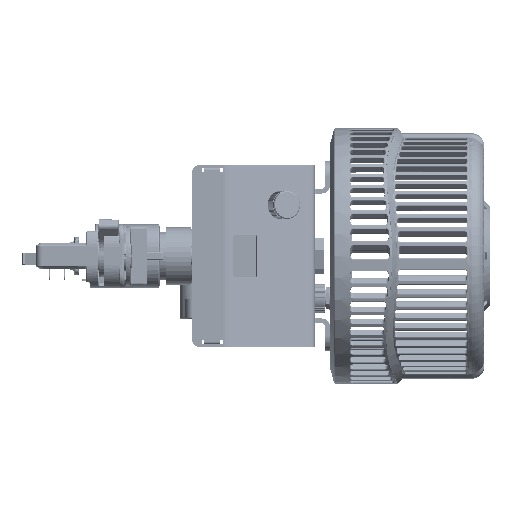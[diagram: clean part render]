
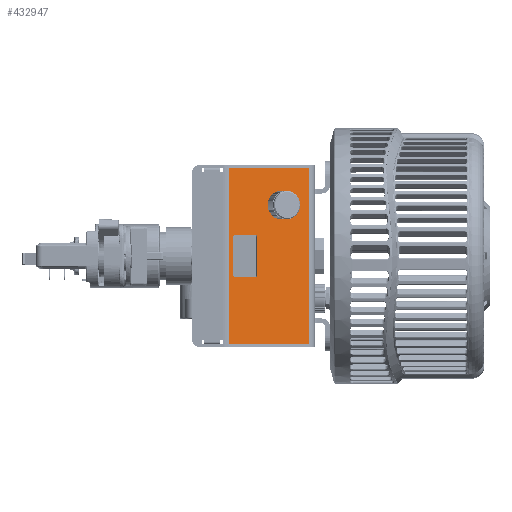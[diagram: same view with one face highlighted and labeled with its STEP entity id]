
A CAD part, left-side view. The second image highlights one B-rep face of the part: STEP entity #432947.
In plain terms, the highlighted planar face has unit normal (-0.94, -0.342, 0).
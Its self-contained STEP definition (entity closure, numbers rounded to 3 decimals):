
#3275 = ORIENTED_EDGE ( 'NONE', *, *, #78972, .T. ) ;
#5434 = CARTESIAN_POINT ( 'NONE',  ( -75.375, 26.401, 9.95 ) ) ;
#6019 = EDGE_CURVE ( 'NONE', #164971, #242608, #255542, .T. ) ;
#15509 = EDGE_CURVE ( 'NONE', #63142, #175358, #480368, .T. ) ;
#22103 = EDGE_CURVE ( 'NONE', #516331, #394031, #467445, .T. ) ;
#36964 = DIRECTION ( 'NONE',  ( -0.94, -0.342, 0. ) ) ;
#39601 = FACE_BOUND ( 'NONE', #167925, .T. ) ;
#41748 = EDGE_CURVE ( 'NONE', #516331, #242608, #69011, .T. ) ;
#47328 = DIRECTION ( 'NONE',  ( -0.342, 0.94, 0. ) ) ;
#47826 = CARTESIAN_POINT ( 'NONE',  ( -75.032, 25.461, -9.95 ) ) ;
#53994 = DIRECTION ( 'NONE',  ( 0.342, -0.94, 0. ) ) ;
#62865 = DIRECTION ( 'NONE',  ( 0.94, 0.342, 0. ) ) ;
#63142 = VERTEX_POINT ( 'NONE', #122676 ) ;
#69011 = LINE ( 'NONE', #499839, #95916 ) ;
#70005 = ORIENTED_EDGE ( 'NONE', *, *, #450361, .F. ) ;
#78731 = CARTESIAN_POINT ( 'NONE',  ( -70.997, 14.373, 26.5 ) ) ;
#78972 = EDGE_CURVE ( 'NONE', #466713, #349958, #433172, .T. ) ;
#80675 = EDGE_CURVE ( 'NONE', #480089, #183402, #317839, .T. ) ;
#83879 = CARTESIAN_POINT ( 'NONE',  ( -65.209, -1.528, 46. ) ) ;
#84938 = CIRCLE ( 'NONE', #151687, 4. ) ;
#94021 = DIRECTION ( 'NONE',  ( 0.342, -0.94, 0. ) ) ;
#95916 = VECTOR ( 'NONE', #424084, 1000. ) ;
#97771 = CARTESIAN_POINT ( 'NONE',  ( -65.209, -1.528, -46. ) ) ;
#98264 = CARTESIAN_POINT ( 'NONE',  ( -79.274, 37.113, -10.95 ) ) ;
#99461 = ORIENTED_EDGE ( 'NONE', *, *, #15509, .F. ) ;
#102777 = VECTOR ( 'NONE', #497272, 1000. ) ;
#109524 = DIRECTION ( 'NONE',  ( 0., 0., -1. ) ) ;
#110255 = LINE ( 'NONE', #316290, #516814 ) ;
#112743 = ORIENTED_EDGE ( 'NONE', *, *, #41748, .F. ) ;
#116333 = CARTESIAN_POINT ( 'NONE',  ( -80.487, 40.448, -46. ) ) ;
#122676 = CARTESIAN_POINT ( 'NONE',  ( -72.365, 18.131, 26.5 ) ) ;
#148157 = EDGE_CURVE ( 'NONE', #399296, #176657, #180423, .T. ) ;
#148520 = AXIS2_PLACEMENT_3D ( 'NONE', #83879, #206599, #47328 ) ;
#149809 = VECTOR ( 'NONE', #170121, 1000. ) ;
#150979 = AXIS2_PLACEMENT_3D ( 'NONE', #273631, #432910, #265948 ) ;
#151687 = AXIS2_PLACEMENT_3D ( 'NONE', #294064, #453393, #53994 ) ;
#156448 = CARTESIAN_POINT ( 'NONE',  ( -79.616, 38.053, -10.95 ) ) ;
#159676 = FACE_OUTER_BOUND ( 'NONE', #501656, .T. ) ;
#164971 = VERTEX_POINT ( 'NONE', #450782 ) ;
#167116 = EDGE_CURVE ( 'NONE', #466713, #399296, #451755, .T. ) ;
#167925 = EDGE_LOOP ( 'NONE', ( #112743, #365164, #476123, #217866, #358300, #345587, #70005, #396923 ) ) ;
#170121 = DIRECTION ( 'NONE',  ( 0., 0., -1. ) ) ;
#175358 = VERTEX_POINT ( 'NONE', #416011 ) ;
#176657 = VERTEX_POINT ( 'NONE', #355721 ) ;
#180423 = LINE ( 'NONE', #258685, #149809 ) ;
#183402 = VERTEX_POINT ( 'NONE', #256289 ) ;
#191408 = EDGE_CURVE ( 'NONE', #334741, #183402, #279057, .T. ) ;
#193146 = DIRECTION ( 'NONE',  ( 0., 0., -1. ) ) ;
#195936 = CARTESIAN_POINT ( 'NONE',  ( -80.487, 40.448, 46. ) ) ;
#196274 = DIRECTION ( 'NONE',  ( 0.342, -0.94, 0. ) ) ;
#204755 = DIRECTION ( 'NONE',  ( -0.342, 0.94, 0. ) ) ;
#206599 = DIRECTION ( 'NONE',  ( 0.94, 0.342, 0. ) ) ;
#213592 = VECTOR ( 'NONE', #94021, 1000. ) ;
#217866 = ORIENTED_EDGE ( 'NONE', *, *, #80675, .T. ) ;
#230605 = EDGE_LOOP ( 'NONE', ( #365031, #99461 ) ) ;
#233598 = DIRECTION ( 'NONE',  ( 0.94, 0.342, 0. ) ) ;
#238043 = DIRECTION ( 'NONE',  ( -0.342, 0.94, 0. ) ) ;
#242608 = VERTEX_POINT ( 'NONE', #411856 ) ;
#243008 = CARTESIAN_POINT ( 'NONE',  ( -65.209, -1.528, 46. ) ) ;
#253853 = EDGE_CURVE ( 'NONE', #175358, #63142, #84938, .T. ) ;
#255542 = CIRCLE ( 'NONE', #321524, 1. ) ;
#256289 = CARTESIAN_POINT ( 'NONE',  ( -79.616, 38.053, -9.95 ) ) ;
#258180 = CARTESIAN_POINT ( 'NONE',  ( -79.274, 37.113, 10.95 ) ) ;
#258685 = CARTESIAN_POINT ( 'NONE',  ( -65.209, -1.528, 46. ) ) ;
#265948 = DIRECTION ( 'NONE',  ( -0.342, 0.94, 0. ) ) ;
#272001 = DIRECTION ( 'NONE',  ( 0.94, 0.342, 0. ) ) ;
#273631 = CARTESIAN_POINT ( 'NONE',  ( -79.274, 37.113, -9.95 ) ) ;
#274091 = VECTOR ( 'NONE', #109524, 1000. ) ;
#279057 = LINE ( 'NONE', #156448, #285060 ) ;
#282223 = EDGE_CURVE ( 'NONE', #349958, #176657, #447751, .T. ) ;
#285060 = VECTOR ( 'NONE', #193146, 1000. ) ;
#294064 = CARTESIAN_POINT ( 'NONE',  ( -70.997, 14.373, 26.5 ) ) ;
#294866 = VECTOR ( 'NONE', #402544, 1000. ) ;
#304215 = VERTEX_POINT ( 'NONE', #258180 ) ;
#316290 = CARTESIAN_POINT ( 'NONE',  ( -79.616, 38.053, 10.95 ) ) ;
#317839 = CIRCLE ( 'NONE', #150979, 1. ) ;
#321524 = AXIS2_PLACEMENT_3D ( 'NONE', #5434, #272001, #514774 ) ;
#321595 = CARTESIAN_POINT ( 'NONE',  ( -79.616, 38.053, -10.95 ) ) ;
#321768 = CARTESIAN_POINT ( 'NONE',  ( -79.616, 38.053, 9.95 ) ) ;
#334741 = VERTEX_POINT ( 'NONE', #321768 ) ;
#341125 = CARTESIAN_POINT ( 'NONE',  ( -65.209, -1.528, 46. ) ) ;
#345587 = ORIENTED_EDGE ( 'NONE', *, *, #394792, .T. ) ;
#349958 = VERTEX_POINT ( 'NONE', #116333 ) ;
#350888 = CARTESIAN_POINT ( 'NONE',  ( -75.375, 26.401, -10.95 ) ) ;
#355721 = CARTESIAN_POINT ( 'NONE',  ( -65.209, -1.528, -46. ) ) ;
#358300 = ORIENTED_EDGE ( 'NONE', *, *, #191408, .F. ) ;
#360833 = LINE ( 'NONE', #321595, #294866 ) ;
#363117 = ORIENTED_EDGE ( 'NONE', *, *, #148157, .F. ) ;
#365031 = ORIENTED_EDGE ( 'NONE', *, *, #253853, .F. ) ;
#365164 = ORIENTED_EDGE ( 'NONE', *, *, #22103, .T. ) ;
#381335 = DIRECTION ( 'NONE',  ( -0.342, 0.94, 0. ) ) ;
#388873 = CIRCLE ( 'NONE', #422400, 1. ) ;
#390957 = EDGE_CURVE ( 'NONE', #480089, #394031, #360833, .T. ) ;
#391428 = CARTESIAN_POINT ( 'NONE',  ( -80.487, 40.448, 46. ) ) ;
#394031 = VERTEX_POINT ( 'NONE', #350888 ) ;
#394792 = EDGE_CURVE ( 'NONE', #334741, #304215, #388873, .T. ) ;
#396923 = ORIENTED_EDGE ( 'NONE', *, *, #6019, .T. ) ;
#399296 = VERTEX_POINT ( 'NONE', #341125 ) ;
#399801 = PLANE ( 'NONE',  #148520 ) ;
#400526 = CARTESIAN_POINT ( 'NONE',  ( -75.375, 26.401, -9.95 ) ) ;
#402544 = DIRECTION ( 'NONE',  ( 0.342, -0.94, 0. ) ) ;
#411856 = CARTESIAN_POINT ( 'NONE',  ( -75.032, 25.461, 9.95 ) ) ;
#416011 = CARTESIAN_POINT ( 'NONE',  ( -69.629, 10.614, 26.5 ) ) ;
#422400 = AXIS2_PLACEMENT_3D ( 'NONE', #462305, #62865, #381335 ) ;
#424084 = DIRECTION ( 'NONE',  ( 0., 0., 1. ) ) ;
#432910 = DIRECTION ( 'NONE',  ( 0.94, 0.342, 0. ) ) ;
#432947 = ADVANCED_FACE ( 'NONE', ( #446717, #39601, #159676 ), #399801, .F. ) ;
#433172 = LINE ( 'NONE', #391428, #274091 ) ;
#440177 = ORIENTED_EDGE ( 'NONE', *, *, #167116, .F. ) ;
#446717 = FACE_BOUND ( 'NONE', #230605, .T. ) ;
#447751 = LINE ( 'NONE', #97771, #102777 ) ;
#450361 = EDGE_CURVE ( 'NONE', #164971, #304215, #110255, .T. ) ;
#450782 = CARTESIAN_POINT ( 'NONE',  ( -75.375, 26.401, 10.95 ) ) ;
#451755 = LINE ( 'NONE', #243008, #213592 ) ;
#453393 = DIRECTION ( 'NONE',  ( -0.94, -0.342, 0. ) ) ;
#462305 = CARTESIAN_POINT ( 'NONE',  ( -79.274, 37.113, 9.95 ) ) ;
#463642 = ORIENTED_EDGE ( 'NONE', *, *, #282223, .T. ) ;
#466713 = VERTEX_POINT ( 'NONE', #195936 ) ;
#467445 = CIRCLE ( 'NONE', #483882, 1. ) ;
#476123 = ORIENTED_EDGE ( 'NONE', *, *, #390957, .F. ) ;
#480089 = VERTEX_POINT ( 'NONE', #98264 ) ;
#480368 = CIRCLE ( 'NONE', #488627, 4. ) ;
#483882 = AXIS2_PLACEMENT_3D ( 'NONE', #400526, #233598, #204755 ) ;
#488627 = AXIS2_PLACEMENT_3D ( 'NONE', #78731, #36964, #196274 ) ;
#497272 = DIRECTION ( 'NONE',  ( 0.342, -0.94, 0. ) ) ;
#499839 = CARTESIAN_POINT ( 'NONE',  ( -75.032, 25.461, -10.95 ) ) ;
#501656 = EDGE_LOOP ( 'NONE', ( #463642, #363117, #440177, #3275 ) ) ;
#514774 = DIRECTION ( 'NONE',  ( -0.342, 0.94, 0. ) ) ;
#516331 = VERTEX_POINT ( 'NONE', #47826 ) ;
#516814 = VECTOR ( 'NONE', #238043, 1000. ) ;
